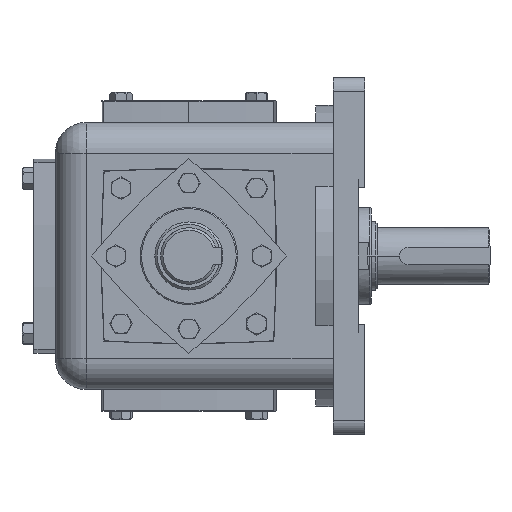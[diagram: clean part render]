
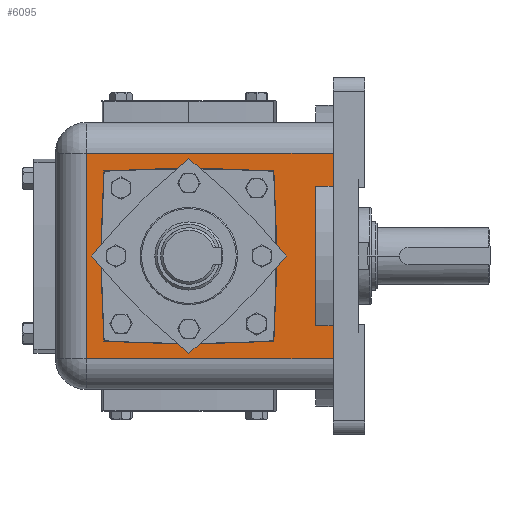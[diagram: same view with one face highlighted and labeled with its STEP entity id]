
A CAD part, left-side view. The second image highlights one B-rep face of the part: STEP entity #6095.
In plain terms, the highlighted planar face has unit normal (-1, 0, 0).
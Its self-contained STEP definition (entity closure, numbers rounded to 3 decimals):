
#8 = LINE ( 'NONE', #7005, #22489 ) ;
#32 = DIRECTION ( 'NONE',  ( 0., 1., 0. ) ) ;
#473 = CARTESIAN_POINT ( 'NONE',  ( -106.4, 67.75, -67.75 ) ) ;
#480 = VERTEX_POINT ( 'NONE', #473 ) ;
#672 = DIRECTION ( 'NONE',  ( 1., 0., 0. ) ) ;
#997 = PLANE ( 'NONE',  #14458 ) ;
#1849 = ORIENTED_EDGE ( 'NONE', *, *, #21577, .T. ) ;
#2063 = VERTEX_POINT ( 'NONE', #18536 ) ;
#2128 = ORIENTED_EDGE ( 'NONE', *, *, #12560, .F. ) ;
#2228 = VERTEX_POINT ( 'NONE', #19128 ) ;
#2242 = VECTOR ( 'NONE', #6330, 1000. ) ;
#2557 = VERTEX_POINT ( 'NONE', #17683 ) ;
#3212 = FACE_BOUND ( 'NONE', #3749, .T. ) ;
#3374 = DIRECTION ( 'NONE',  ( 0., -1., 0. ) ) ;
#3636 = VERTEX_POINT ( 'NONE', #9782 ) ;
#3730 = DIRECTION ( 'NONE',  ( 0., 0., 1. ) ) ;
#3749 = EDGE_LOOP ( 'NONE', ( #8683, #5480, #12337, #16029, #4397 ) ) ;
#3797 = LINE ( 'NONE', #7226, #12828 ) ;
#4020 = AXIS2_PLACEMENT_3D ( 'NONE', #22139, #8100, #6616 ) ;
#4117 = ORIENTED_EDGE ( 'NONE', *, *, #5391, .T. ) ;
#4397 = ORIENTED_EDGE ( 'NONE', *, *, #10416, .T. ) ;
#4601 = EDGE_CURVE ( 'NONE', #480, #2228, #11306, .T. ) ;
#4676 = VERTEX_POINT ( 'NONE', #10439 ) ;
#4969 = CIRCLE ( 'NONE', #11030, 1148.516 ) ;
#4976 = VERTEX_POINT ( 'NONE', #7173 ) ;
#5005 = ORIENTED_EDGE ( 'NONE', *, *, #7196, .T. ) ;
#5011 = CARTESIAN_POINT ( 'NONE',  ( -106.4, -115., -55.489 ) ) ;
#5018 = EDGE_CURVE ( 'NONE', #14671, #15475, #4969, .T. ) ;
#5074 = VERTEX_POINT ( 'NONE', #5886 ) ;
#5262 = CIRCLE ( 'NONE', #11506, 1148.516 ) ;
#5336 = EDGE_CURVE ( 'NONE', #20570, #4676, #8, .T. ) ;
#5374 = ORIENTED_EDGE ( 'NONE', *, *, #20569, .T. ) ;
#5391 = EDGE_CURVE ( 'NONE', #5074, #11852, #8230, .T. ) ;
#5480 = ORIENTED_EDGE ( 'NONE', *, *, #22011, .T. ) ;
#5501 = VECTOR ( 'NONE', #15367, 1000. ) ;
#5886 = CARTESIAN_POINT ( 'NONE',  ( -106.4, -115., 81.835 ) ) ;
#6095 = ADVANCED_FACE ( 'NONE', ( #3212, #9499 ), #997, .T. ) ;
#6322 = CIRCLE ( 'NONE', #18526, 1148.516 ) ;
#6330 = DIRECTION ( 'NONE',  ( 0., 0., 1. ) ) ;
#6375 = CARTESIAN_POINT ( 'NONE',  ( -106.4, -67.75, -67.75 ) ) ;
#6535 = VERTEX_POINT ( 'NONE', #17530 ) ;
#6575 = EDGE_CURVE ( 'NONE', #6535, #480, #5262, .T. ) ;
#6616 = DIRECTION ( 'NONE',  ( 0., 0., 1. ) ) ;
#7005 = CARTESIAN_POINT ( 'NONE',  ( -106.4, -101., -55.489 ) ) ;
#7173 = CARTESIAN_POINT ( 'NONE',  ( -106.4, -115., -81.835 ) ) ;
#7196 = EDGE_CURVE ( 'NONE', #11852, #2557, #19486, .T. ) ;
#7226 = CARTESIAN_POINT ( 'NONE',  ( -106.4, -115., -106.4 ) ) ;
#7705 = LINE ( 'NONE', #10481, #19491 ) ;
#8100 = DIRECTION ( 'NONE',  ( 1., 0., 0. ) ) ;
#8102 = CARTESIAN_POINT ( 'NONE',  ( -106.4, -115., -106.4 ) ) ;
#8130 = CARTESIAN_POINT ( 'NONE',  ( -106.4, -115., -106.4 ) ) ;
#8230 = LINE ( 'NONE', #16116, #21688 ) ;
#8362 = DIRECTION ( 'NONE',  ( 0., 0., 1. ) ) ;
#8367 = EDGE_CURVE ( 'NONE', #3636, #5074, #3797, .T. ) ;
#8683 = ORIENTED_EDGE ( 'NONE', *, *, #5018, .T. ) ;
#8706 = CARTESIAN_POINT ( 'NONE',  ( -106.4, 0., 1078.766 ) ) ;
#9499 = FACE_OUTER_BOUND ( 'NONE', #11319, .T. ) ;
#9782 = CARTESIAN_POINT ( 'NONE',  ( -106.4, -115., 55.489 ) ) ;
#9802 = DIRECTION ( 'NONE',  ( -1., 0., 0. ) ) ;
#9806 = DIRECTION ( 'NONE',  ( 1., 0., 0. ) ) ;
#9902 = CARTESIAN_POINT ( 'NONE',  ( -106.4, 81.835, -106.4 ) ) ;
#10038 = CARTESIAN_POINT ( 'NONE',  ( -106.4, 0., -1078.766 ) ) ;
#10228 = DIRECTION ( 'NONE',  ( 1., 0., 0. ) ) ;
#10416 = EDGE_CURVE ( 'NONE', #2228, #14671, #18309, .T. ) ;
#10439 = CARTESIAN_POINT ( 'NONE',  ( -106.4, -101., -55.489 ) ) ;
#10481 = CARTESIAN_POINT ( 'NONE',  ( -106.4, -115., -81.835 ) ) ;
#10887 = DIRECTION ( 'NONE',  ( 0., 1., 0. ) ) ;
#11030 = AXIS2_PLACEMENT_3D ( 'NONE', #13089, #672, #21524 ) ;
#11306 = CIRCLE ( 'NONE', #4020, 1148.516 ) ;
#11319 = EDGE_LOOP ( 'NONE', ( #16947, #22277, #2128, #5374, #17774, #4117, #5005, #1849 ) ) ;
#11506 = AXIS2_PLACEMENT_3D ( 'NONE', #19130, #10228, #19193 ) ;
#11852 = VERTEX_POINT ( 'NONE', #19807 ) ;
#12337 = ORIENTED_EDGE ( 'NONE', *, *, #6575, .T. ) ;
#12560 = EDGE_CURVE ( 'NONE', #2063, #4676, #21513, .T. ) ;
#12828 = VECTOR ( 'NONE', #22663, 1000. ) ;
#13089 = CARTESIAN_POINT ( 'NONE',  ( -106.4, 1078.766, 0. ) ) ;
#13756 = DIRECTION ( 'NONE',  ( 0., -1., 0. ) ) ;
#14058 = CARTESIAN_POINT ( 'NONE',  ( -106.4, -101., 55.489 ) ) ;
#14458 = AXIS2_PLACEMENT_3D ( 'NONE', #8130, #9802, #8362 ) ;
#14671 = VERTEX_POINT ( 'NONE', #14757 ) ;
#14757 = CARTESIAN_POINT ( 'NONE',  ( -106.4, -67.75, 67.75 ) ) ;
#15367 = DIRECTION ( 'NONE',  ( 0., 0., -1. ) ) ;
#15475 = VERTEX_POINT ( 'NONE', #6375 ) ;
#15638 = DIRECTION ( 'NONE',  ( 0., 0., -1. ) ) ;
#15842 = DIRECTION ( 'NONE',  ( 1., 0., 0. ) ) ;
#16029 = ORIENTED_EDGE ( 'NONE', *, *, #4601, .T. ) ;
#16116 = CARTESIAN_POINT ( 'NONE',  ( -106.4, -115., 81.835 ) ) ;
#16947 = ORIENTED_EDGE ( 'NONE', *, *, #20800, .T. ) ;
#17105 = DIRECTION ( 'NONE',  ( 0., 0., 1. ) ) ;
#17530 = CARTESIAN_POINT ( 'NONE',  ( -106.4, 0., -69.75 ) ) ;
#17683 = CARTESIAN_POINT ( 'NONE',  ( -106.4, 81.835, -81.835 ) ) ;
#17774 = ORIENTED_EDGE ( 'NONE', *, *, #8367, .T. ) ;
#18309 = CIRCLE ( 'NONE', #21385, 1148.516 ) ;
#18452 = LINE ( 'NONE', #14058, #22561 ) ;
#18526 = AXIS2_PLACEMENT_3D ( 'NONE', #8706, #15842, #3730 ) ;
#18536 = CARTESIAN_POINT ( 'NONE',  ( -106.4, -101., 55.489 ) ) ;
#19128 = CARTESIAN_POINT ( 'NONE',  ( -106.4, 67.75, 67.75 ) ) ;
#19130 = CARTESIAN_POINT ( 'NONE',  ( -106.4, 0., 1078.766 ) ) ;
#19193 = DIRECTION ( 'NONE',  ( 0., 0., 1. ) ) ;
#19486 = LINE ( 'NONE', #9902, #5501 ) ;
#19491 = VECTOR ( 'NONE', #3374, 1000. ) ;
#19807 = CARTESIAN_POINT ( 'NONE',  ( -106.4, 81.835, 81.835 ) ) ;
#19851 = VECTOR ( 'NONE', #15638, 1000. ) ;
#20569 = EDGE_CURVE ( 'NONE', #2063, #3636, #18452, .T. ) ;
#20570 = VERTEX_POINT ( 'NONE', #5011 ) ;
#20800 = EDGE_CURVE ( 'NONE', #4976, #20570, #21464, .T. ) ;
#20856 = CARTESIAN_POINT ( 'NONE',  ( -106.4, -101., -106.4 ) ) ;
#21385 = AXIS2_PLACEMENT_3D ( 'NONE', #10038, #9806, #17105 ) ;
#21464 = LINE ( 'NONE', #8102, #2242 ) ;
#21513 = LINE ( 'NONE', #20856, #19851 ) ;
#21524 = DIRECTION ( 'NONE',  ( 0., 0., 1. ) ) ;
#21577 = EDGE_CURVE ( 'NONE', #2557, #4976, #7705, .T. ) ;
#21688 = VECTOR ( 'NONE', #10887, 1000. ) ;
#22011 = EDGE_CURVE ( 'NONE', #15475, #6535, #6322, .T. ) ;
#22139 = CARTESIAN_POINT ( 'NONE',  ( -106.4, -1078.766, 0. ) ) ;
#22277 = ORIENTED_EDGE ( 'NONE', *, *, #5336, .T. ) ;
#22489 = VECTOR ( 'NONE', #32, 1000. ) ;
#22561 = VECTOR ( 'NONE', #13756, 1000. ) ;
#22663 = DIRECTION ( 'NONE',  ( 0., 0., 1. ) ) ;
